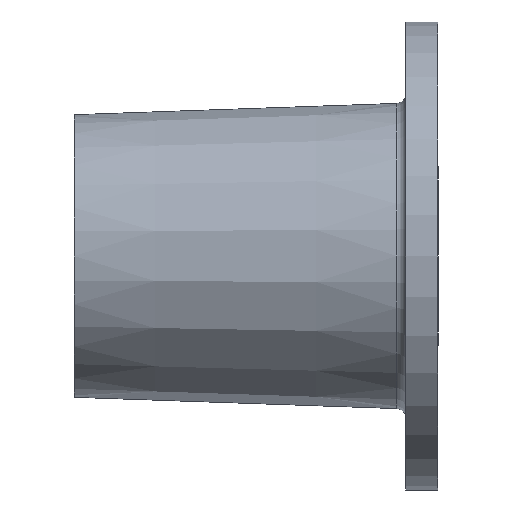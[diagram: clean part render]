
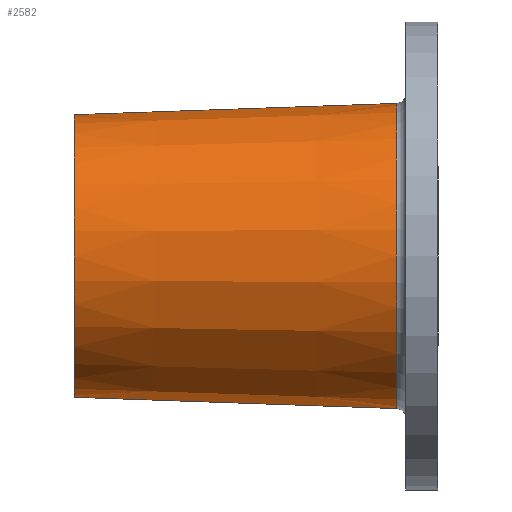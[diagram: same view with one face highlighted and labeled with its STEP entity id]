
A CAD part, left-side view. The second image highlights one B-rep face of the part: STEP entity #2582.
In plain terms, the highlighted conical face has half-angle 2 degrees and reference radius 69.017 mm.
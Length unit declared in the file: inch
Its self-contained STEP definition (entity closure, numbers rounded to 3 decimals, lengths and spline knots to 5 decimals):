
#360 = CARTESIAN_POINT ( 'NONE',  ( 0., 0.79372, -2.93393 ) ) ;
#523 = CIRCLE ( 'NONE', #2844, 2.93393 ) ;
#773 = CARTESIAN_POINT ( 'NONE',  ( 0., 7., -2.71721 ) ) ;
#1163 = AXIS2_PLACEMENT_3D ( 'NONE', #1677, #1689, #2251 ) ;
#1372 = EDGE_CURVE ( 'NONE', #5102, #5633, #1738, .T. ) ;
#1473 = CARTESIAN_POINT ( 'NONE',  ( 0., 7., 2.71721 ) ) ;
#1550 = ORIENTED_EDGE ( 'NONE', *, *, #6020, .F. ) ;
#1677 = CARTESIAN_POINT ( 'NONE',  ( 0., 7., 0. ) ) ;
#1689 = DIRECTION ( 'NONE',  ( 0., -1., 0. ) ) ;
#1738 = CIRCLE ( 'NONE', #1163, 2.71721 ) ;
#1983 = VERTEX_POINT ( 'NONE', #360 ) ;
#2251 = DIRECTION ( 'NONE',  ( 0., 0., -1. ) ) ;
#2582 = ADVANCED_FACE ( 'NONE', ( #6381 ), #3702, .T. ) ;
#2844 = AXIS2_PLACEMENT_3D ( 'NONE', #4861, #4832, #4796 ) ;
#3666 = EDGE_LOOP ( 'NONE', ( #1550, #4008, #4727, #6110 ) ) ;
#3702 = CONICAL_SURFACE ( 'NONE', #5214, 2.71721, 0.035 ) ;
#3894 = CARTESIAN_POINT ( 'NONE',  ( 0., 0.79372, 2.93393 ) ) ;
#4008 = ORIENTED_EDGE ( 'NONE', *, *, #1372, .T. ) ;
#4112 = EDGE_CURVE ( 'NONE', #1983, #5405, #523, .T. ) ;
#4135 = CARTESIAN_POINT ( 'NONE',  ( 0., 7., 2.71721 ) ) ;
#4149 = VECTOR ( 'NONE', #5484, 39.37008 ) ;
#4173 = DIRECTION ( 'NONE',  ( 0., -0.999, 0.035 ) ) ;
#4460 = VECTOR ( 'NONE', #4173, 39.37008 ) ;
#4727 = ORIENTED_EDGE ( 'NONE', *, *, #6115, .T. ) ;
#4796 = DIRECTION ( 'NONE',  ( 0., 0., -1. ) ) ;
#4832 = DIRECTION ( 'NONE',  ( 0., 1., 0. ) ) ;
#4861 = CARTESIAN_POINT ( 'NONE',  ( 0., 0.79372, 0. ) ) ;
#5102 = VERTEX_POINT ( 'NONE', #1473 ) ;
#5214 = AXIS2_PLACEMENT_3D ( 'NONE', #6338, #5761, #5857 ) ;
#5405 = VERTEX_POINT ( 'NONE', #3894 ) ;
#5450 = CARTESIAN_POINT ( 'NONE',  ( 0., 7., -2.71721 ) ) ;
#5484 = DIRECTION ( 'NONE',  ( 0., -0.999, -0.035 ) ) ;
#5633 = VERTEX_POINT ( 'NONE', #773 ) ;
#5761 = DIRECTION ( 'NONE',  ( 0., -1., 0. ) ) ;
#5857 = DIRECTION ( 'NONE',  ( 0., 0., -1. ) ) ;
#5871 = LINE ( 'NONE', #4135, #4460 ) ;
#6020 = EDGE_CURVE ( 'NONE', #5102, #5405, #5871, .T. ) ;
#6110 = ORIENTED_EDGE ( 'NONE', *, *, #4112, .T. ) ;
#6115 = EDGE_CURVE ( 'NONE', #5633, #1983, #6508, .T. ) ;
#6338 = CARTESIAN_POINT ( 'NONE',  ( 0., 7., 0. ) ) ;
#6381 = FACE_OUTER_BOUND ( 'NONE', #3666, .T. ) ;
#6508 = LINE ( 'NONE', #5450, #4149 ) ;
